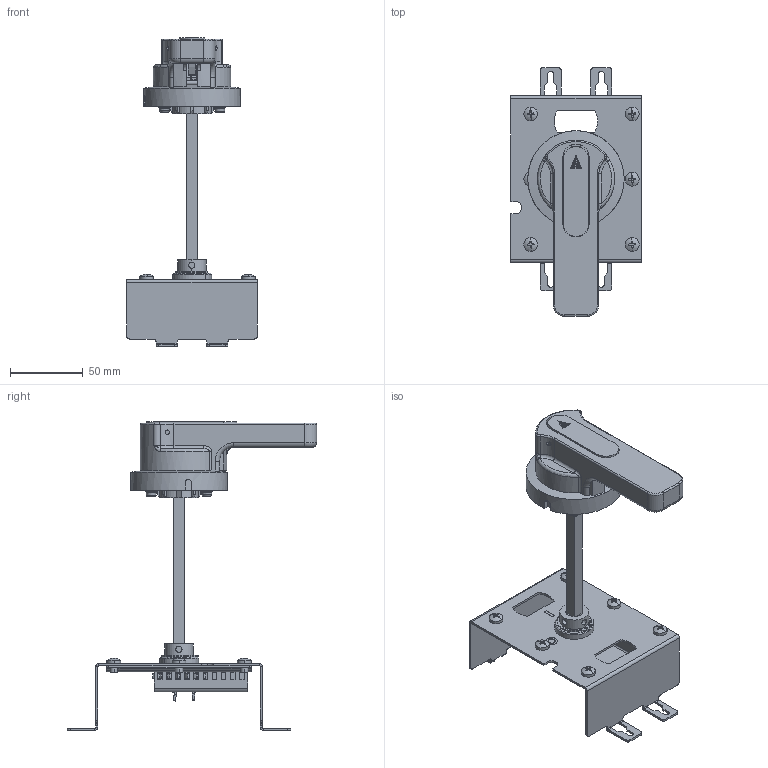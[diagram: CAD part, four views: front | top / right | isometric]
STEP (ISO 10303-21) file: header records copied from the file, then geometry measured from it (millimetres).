
FILE_DESCRIPTION(/* description */ (''),/* implementation_level */ '2;1');
FILE_NAME(/* name */ '_model1.stp',/* time_stamp */ '2025-09-24T10:07:39+08:00',/* author */ (''),/* organization */ (''),/* preprocessor_version */ 'ST-DEVELOPER v16',/* originating_system */ 'SIEMENS PLM Software NX 10.0',/* authorisation */ '');
FILE_SCHEMA (('AUTOMOTIVE_DESIGN { 1 0 10303 214 3 1 1 1 }'));
Products named in the file (1): midi514C04092fs0
Bounding box: 90 x 171.85 x 212.8 mm (x, y, z)
Volume: 58654.5 mm3; surface area: 109326.5 mm2
Topology: 17 solids, 18 shells, 1395 faces, 3689 edges, 2303 vertices
Faces by surface type: plane 782, cylinder 394, bspline 129, cone 53, torus 25, sphere 12
Full cylindrical faces by diameter (mm): 2.7 x2, 3 x3, 3.5 x8, 3.8 x3, 4 x5, 4.18 x2, 4.4 x2, 4.542 x1, 8 x2, 23.5 x1, 66.5 x1
Entity records: 68184 total; most frequent: CARTESIAN_POINT 34578, ORIENTED_EDGE 7092, DIRECTION 6638, EDGE_CURVE 3546, VERTEX_POINT 2269, AXIS2_PLACEMENT_3D 2231, LINE 2176, VECTOR 2176
